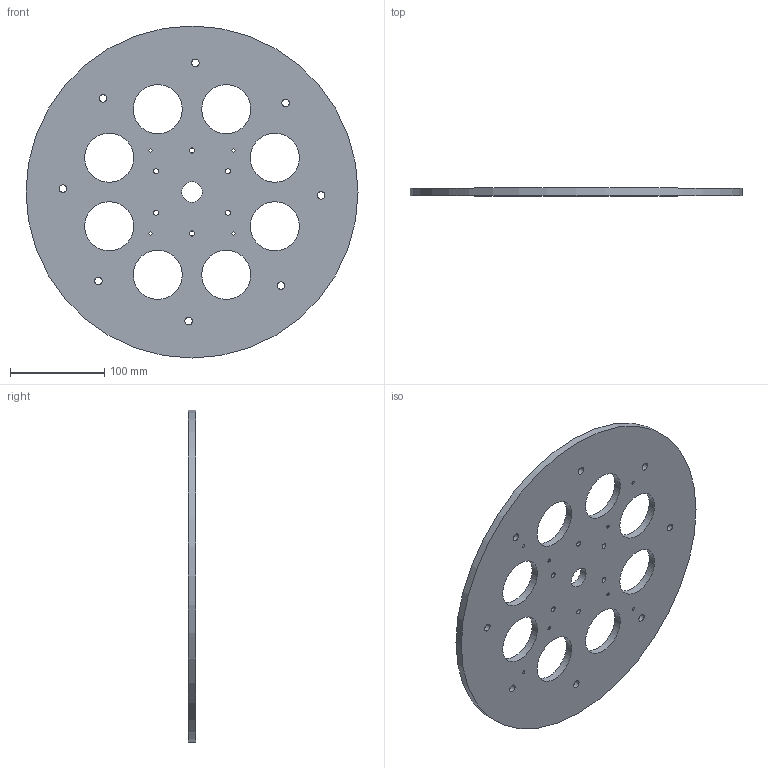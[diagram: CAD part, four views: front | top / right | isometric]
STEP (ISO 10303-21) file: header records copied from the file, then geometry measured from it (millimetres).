
FILE_DESCRIPTION(('Open CASCADE Model'),'2;1');
FILE_NAME('Open CASCADE Shape Model','2026-10-18T22:58:04',('Author'),( 'Open CASCADE'),'Open CASCADE STEP processor 7.9','Open CASCADE 7.9' ,'Unknown');
FILE_SCHEMA(('AUTOMOTIVE_DESIGN { 1 0 10303 214 1 1 1 1 }'));
Length unit declared in the file: millimetre
Products named in the file (1): Open CASCADE STEP translator 7.9 6
Bounding box: 352 x 8 x 352 mm (x, y, z)
Volume: 633975.2 mm3; surface area: 181553.6 mm2
Topology: 1 solids, 1 shells, 48 faces, 116 edges, 74 vertices
Faces by surface type: cylinder 36, plane 6, cone 6
Full cylindrical faces by diameter (mm): 3.3 x12, 5.5 x6, 8.04 x8, 22 x1, 52 x8, 352 x1
Entity records: 3132 total; most frequent: CARTESIAN_POINT 615, DIRECTION 496, ORIENTED_EDGE 232, PCURVE 232, DEFINITIONAL_REPRESENTATION 232, LINE 210, VECTOR 210, AXIS2_PLACEMENT_3D 123
